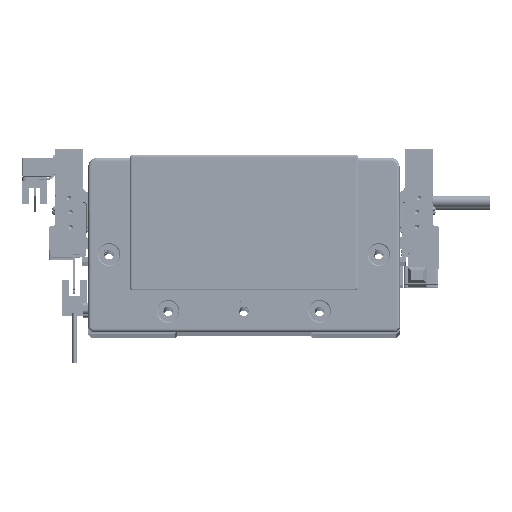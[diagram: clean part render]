
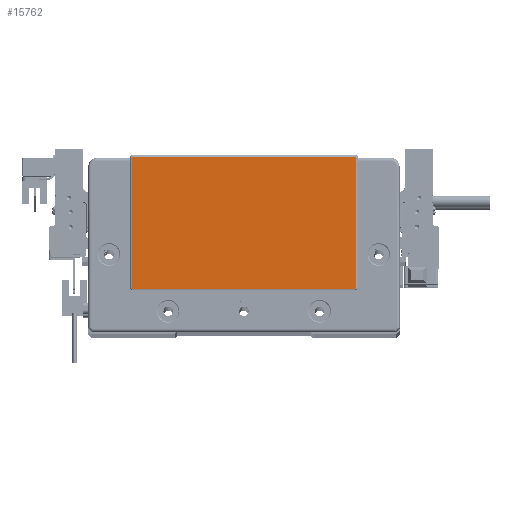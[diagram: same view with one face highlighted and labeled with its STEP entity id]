
A CAD part, top view. The second image highlights one B-rep face of the part: STEP entity #15762.
In plain terms, the highlighted planar face has unit normal (0, 0, 1) as drawn and (0, 0, -1) by its records, which use the part's own axes.
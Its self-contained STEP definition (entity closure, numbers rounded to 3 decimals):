
#1307 = AXIS2_PLACEMENT_3D ( 'NONE', #90720, #20186, #27079 ) ;
#2846 = LINE ( 'NONE', #34955, #26689 ) ;
#5667 = CIRCLE ( 'NONE', #89803, 0.5 ) ;
#7445 = EDGE_CURVE ( 'NONE', #98125, #35336, #68824, .T. ) ;
#7532 = DIRECTION ( 'NONE',  ( -1., 0., 0. ) ) ;
#8351 = DIRECTION ( 'NONE',  ( 0., 1., 0. ) ) ;
#9183 = ORIENTED_EDGE ( 'NONE', *, *, #7445, .T. ) ;
#10051 = AXIS2_PLACEMENT_3D ( 'NONE', #87765, #15684, #33564 ) ;
#11043 = ORIENTED_EDGE ( 'NONE', *, *, #69632, .T. ) ;
#12572 = ORIENTED_EDGE ( 'NONE', *, *, #66003, .T. ) ;
#14093 = DIRECTION ( 'NONE',  ( -1., 0., 0. ) ) ;
#15212 = EDGE_CURVE ( 'NONE', #55764, #76674, #40081, .T. ) ;
#15582 = CARTESIAN_POINT ( 'NONE',  ( 58.75, -23.3, -2. ) ) ;
#15684 = DIRECTION ( 'NONE',  ( 0., 0., -1. ) ) ;
#15728 = CARTESIAN_POINT ( 'NONE',  ( -59.25, 45.3, -2. ) ) ;
#15762 = ADVANCED_FACE ( 'NONE', ( #48782 ), #71396, .T. ) ;
#16293 = ORIENTED_EDGE ( 'NONE', *, *, #86485, .T. ) ;
#16470 = CIRCLE ( 'NONE', #1307, 0.5 ) ;
#18396 = CARTESIAN_POINT ( 'NONE',  ( -59.25, -23.3, -2. ) ) ;
#20186 = DIRECTION ( 'NONE',  ( 0., 0., -1. ) ) ;
#21063 = CIRCLE ( 'NONE', #24476, 0.5 ) ;
#21525 = EDGE_LOOP ( 'NONE', ( #9183, #11043, #28312, #28463, #27551, #12572, #16293, #102729 ) ) ;
#24103 = DIRECTION ( 'NONE',  ( 0., 0., -1. ) ) ;
#24476 = AXIS2_PLACEMENT_3D ( 'NONE', #96156, #24103, #14093 ) ;
#25064 = VERTEX_POINT ( 'NONE', #53808 ) ;
#26689 = VECTOR ( 'NONE', #75965, 1000. ) ;
#27079 = DIRECTION ( 'NONE',  ( -1., 0., 0. ) ) ;
#27551 = ORIENTED_EDGE ( 'NONE', *, *, #45598, .T. ) ;
#28312 = ORIENTED_EDGE ( 'NONE', *, *, #92411, .T. ) ;
#28463 = ORIENTED_EDGE ( 'NONE', *, *, #15212, .T. ) ;
#29031 = VECTOR ( 'NONE', #8351, 1000. ) ;
#29032 = DIRECTION ( 'NONE',  ( -1., 0., 0. ) ) ;
#30848 = DIRECTION ( 'NONE',  ( -1., 0., 0. ) ) ;
#32227 = VERTEX_POINT ( 'NONE', #50146 ) ;
#33564 = DIRECTION ( 'NONE',  ( -1., 0., 0. ) ) ;
#34454 = CARTESIAN_POINT ( 'NONE',  ( -58.75, -23.8, -2. ) ) ;
#34955 = CARTESIAN_POINT ( 'NONE',  ( 58.75, 45.8, -2. ) ) ;
#35336 = VERTEX_POINT ( 'NONE', #38555 ) ;
#36215 = CARTESIAN_POINT ( 'NONE',  ( -58.75, 45.8, -2. ) ) ;
#38555 = CARTESIAN_POINT ( 'NONE',  ( 59.25, -23.3, -2. ) ) ;
#40081 = CIRCLE ( 'NONE', #65286, 0.5 ) ;
#45598 = EDGE_CURVE ( 'NONE', #76674, #25064, #89375, .T. ) ;
#46496 = VECTOR ( 'NONE', #7532, 1000. ) ;
#48782 = FACE_OUTER_BOUND ( 'NONE', #21525, .T. ) ;
#50146 = CARTESIAN_POINT ( 'NONE',  ( 58.75, 45.8, -2. ) ) ;
#53808 = CARTESIAN_POINT ( 'NONE',  ( -59.25, 45.3, -2. ) ) ;
#54214 = CARTESIAN_POINT ( 'NONE',  ( -58.75, -23.3, -2. ) ) ;
#55764 = VERTEX_POINT ( 'NONE', #34454 ) ;
#64332 = LINE ( 'NONE', #102820, #46496 ) ;
#65286 = AXIS2_PLACEMENT_3D ( 'NONE', #54214, #69971, #29032 ) ;
#65918 = CARTESIAN_POINT ( 'NONE',  ( 59.25, 45.3, -2. ) ) ;
#66003 = EDGE_CURVE ( 'NONE', #25064, #85636, #21063, .T. ) ;
#68824 = LINE ( 'NONE', #94116, #99278 ) ;
#69632 = EDGE_CURVE ( 'NONE', #35336, #71418, #5667, .T. ) ;
#69971 = DIRECTION ( 'NONE',  ( 0., 0., -1. ) ) ;
#71396 = PLANE ( 'NONE',  #10051 ) ;
#71418 = VERTEX_POINT ( 'NONE', #89145 ) ;
#74783 = EDGE_CURVE ( 'NONE', #32227, #98125, #16470, .T. ) ;
#75965 = DIRECTION ( 'NONE',  ( 1., 0., 0. ) ) ;
#76674 = VERTEX_POINT ( 'NONE', #18396 ) ;
#78809 = DIRECTION ( 'NONE',  ( 0., -1., 0. ) ) ;
#85636 = VERTEX_POINT ( 'NONE', #36215 ) ;
#86485 = EDGE_CURVE ( 'NONE', #85636, #32227, #2846, .T. ) ;
#87765 = CARTESIAN_POINT ( 'NONE',  ( 0., 0., -2. ) ) ;
#89145 = CARTESIAN_POINT ( 'NONE',  ( 58.75, -23.8, -2. ) ) ;
#89375 = LINE ( 'NONE', #15728, #29031 ) ;
#89803 = AXIS2_PLACEMENT_3D ( 'NONE', #15582, #96568, #30848 ) ;
#90720 = CARTESIAN_POINT ( 'NONE',  ( 58.75, 45.3, -2. ) ) ;
#92411 = EDGE_CURVE ( 'NONE', #71418, #55764, #64332, .T. ) ;
#94116 = CARTESIAN_POINT ( 'NONE',  ( 59.25, -23.3, -2. ) ) ;
#96156 = CARTESIAN_POINT ( 'NONE',  ( -58.75, 45.3, -2. ) ) ;
#96568 = DIRECTION ( 'NONE',  ( 0., 0., -1. ) ) ;
#98125 = VERTEX_POINT ( 'NONE', #65918 ) ;
#99278 = VECTOR ( 'NONE', #78809, 1000. ) ;
#102729 = ORIENTED_EDGE ( 'NONE', *, *, #74783, .T. ) ;
#102820 = CARTESIAN_POINT ( 'NONE',  ( -58.75, -23.8, -2. ) ) ;
